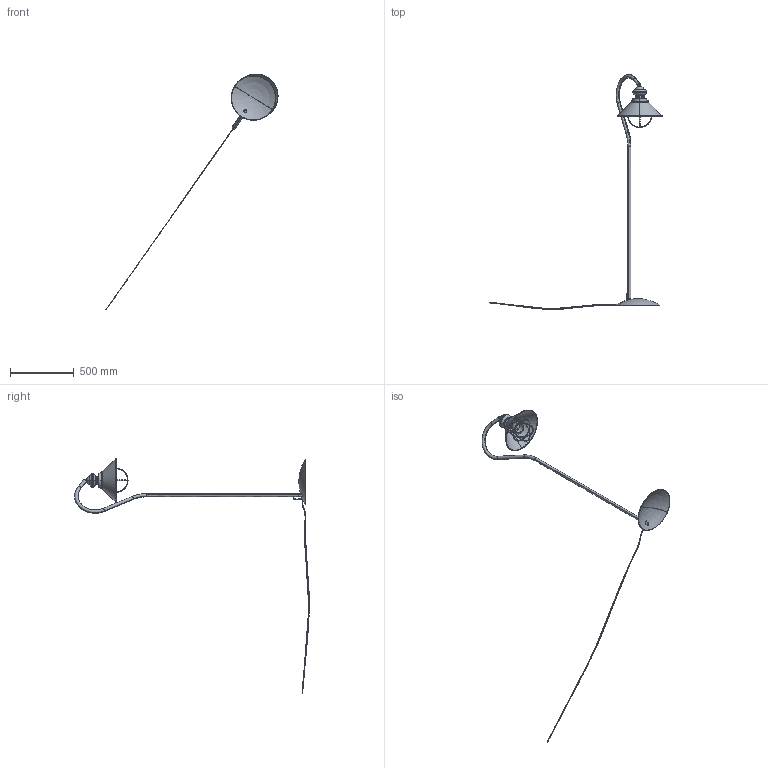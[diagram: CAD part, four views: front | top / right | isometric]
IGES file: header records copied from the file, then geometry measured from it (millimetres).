
Start section: SolidWorks IGES file using analytic representation for surfaces
Global section: file name: E:\3D lampy\Loft\Loft stoj¹ca\Loft_stoj¹ca.IGS; native system: SolidWorks 2016; preprocessor: SolidWorks 2016; author: Asia; date: 160920.135029; units: millimetre
Bounding box: 1348.76 x 1839.28 x 1849.02 mm (x, y, z)
Surface area: 971089.8 mm2 (no closed solid volume)
Topology: 0 solids, 0 shells, 554 faces, 8956 edges, 8923 vertices
Faces by surface type: bspline 287, revolution 267
